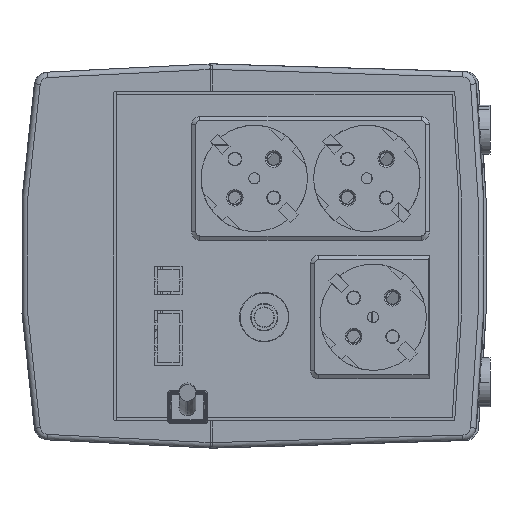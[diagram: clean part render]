
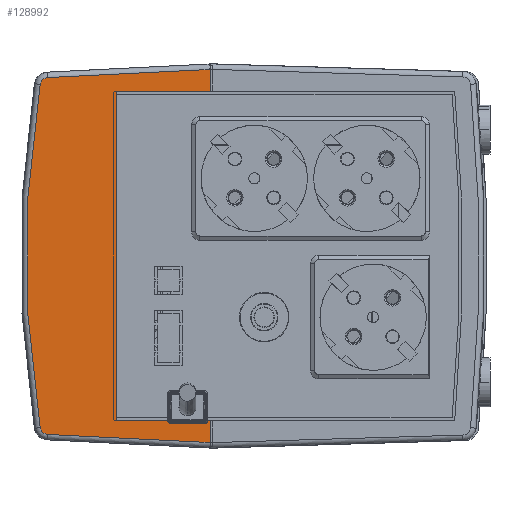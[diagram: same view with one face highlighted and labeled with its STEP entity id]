
A CAD part, left-side view. The second image highlights one B-rep face of the part: STEP entity #128992.
In plain terms, the highlighted planar face has unit normal (-1, 0, 0).
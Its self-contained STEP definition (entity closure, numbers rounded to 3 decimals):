
#406 = EDGE_CURVE ( 'NONE', #100582, #127270, #60407, .T. ) ;
#3980 = VERTEX_POINT ( 'NONE', #127202 ) ;
#5617 = PLANE ( 'NONE',  #14677 ) ;
#9264 = EDGE_CURVE ( 'NONE', #3980, #29879, #82526, .T. ) ;
#9456 = VERTEX_POINT ( 'NONE', #147312 ) ;
#11279 = AXIS2_PLACEMENT_3D ( 'NONE', #92050, #19316, #143255 ) ;
#12023 = CARTESIAN_POINT ( 'NONE',  ( -167.5, 101., 67.948 ) ) ;
#14677 = AXIS2_PLACEMENT_3D ( 'NONE', #65148, #41193, #90747 ) ;
#16124 = VECTOR ( 'NONE', #54950, 1000. ) ;
#19316 = DIRECTION ( 'NONE',  ( -1., 0., 0. ) ) ;
#23396 = AXIS2_PLACEMENT_3D ( 'NONE', #29069, #23582, #73975 ) ;
#23582 = DIRECTION ( 'NONE',  ( -1., 0., 0. ) ) ;
#25087 = LINE ( 'NONE', #75467, #106551 ) ;
#27967 = CARTESIAN_POINT ( 'NONE',  ( -167.5, 135., 60. ) ) ;
#29069 = CARTESIAN_POINT ( 'NONE',  ( -167.5, -220.06, 0. ) ) ;
#29879 = VERTEX_POINT ( 'NONE', #74283 ) ;
#33318 = VECTOR ( 'NONE', #163282, 1000. ) ;
#33427 = LINE ( 'NONE', #81368, #141176 ) ;
#35736 = CARTESIAN_POINT ( 'NONE',  ( -167.5, 101., -60. ) ) ;
#37455 = DIRECTION ( 'NONE',  ( 0., 1., 0. ) ) ;
#38562 = LINE ( 'NONE', #110462, #33318 ) ;
#40950 = CARTESIAN_POINT ( 'NONE',  ( -167.5, 160.077, -64.994 ) ) ;
#41193 = DIRECTION ( 'NONE',  ( -1., 0., 0. ) ) ;
#42810 = FACE_OUTER_BOUND ( 'NONE', #106217, .T. ) ;
#44492 = DIRECTION ( 'NONE',  ( 0., 0.999, -0.05 ) ) ;
#52063 = VECTOR ( 'NONE', #159296, 1000. ) ;
#54454 = CARTESIAN_POINT ( 'NONE',  ( -167.5, 101., 67.948 ) ) ;
#54464 = ORIENTED_EDGE ( 'NONE', *, *, #129390, .F. ) ;
#54950 = DIRECTION ( 'NONE',  ( 0., 1., 0. ) ) ;
#56588 = DIRECTION ( 'NONE',  ( 0., 0., 1. ) ) ;
#60407 = LINE ( 'NONE', #67348, #16124 ) ;
#62424 = EDGE_CURVE ( 'NONE', #110234, #9456, #25087, .T. ) ;
#65148 = CARTESIAN_POINT ( 'NONE',  ( -167.5, 0., -70. ) ) ;
#67348 = CARTESIAN_POINT ( 'NONE',  ( -167.5, 101., -60. ) ) ;
#69983 = EDGE_CURVE ( 'NONE', #92618, #3980, #141991, .T. ) ;
#70548 = DIRECTION ( 'NONE',  ( 0., 0.987, -0.161 ) ) ;
#71352 = CARTESIAN_POINT ( 'NONE',  ( -167.5, 159.927, -61.997 ) ) ;
#73189 = ORIENTED_EDGE ( 'NONE', *, *, #9264, .T. ) ;
#73500 = CIRCLE ( 'NONE', #23396, 388.012 ) ;
#73975 = DIRECTION ( 'NONE',  ( 0., 0.987, 0.161 ) ) ;
#74283 = CARTESIAN_POINT ( 'NONE',  ( -167.5, 162.888, 62.48 ) ) ;
#75459 = ORIENTED_EDGE ( 'NONE', *, *, #160970, .F. ) ;
#75467 = CARTESIAN_POINT ( 'NONE',  ( -167.5, 101., 60. ) ) ;
#78136 = EDGE_CURVE ( 'NONE', #159795, #96695, #108927, .T. ) ;
#79233 = VECTOR ( 'NONE', #44492, 1000. ) ;
#81368 = CARTESIAN_POINT ( 'NONE',  ( -167.5, 101., -67.948 ) ) ;
#81681 = CARTESIAN_POINT ( 'NONE',  ( -167.5, 162.888, -62.48 ) ) ;
#82526 = CIRCLE ( 'NONE', #11279, 3. ) ;
#87414 = ORIENTED_EDGE ( 'NONE', *, *, #406, .T. ) ;
#87466 = LINE ( 'NONE', #27967, #92987 ) ;
#87867 = CARTESIAN_POINT ( 'NONE',  ( -167.5, 135., -60. ) ) ;
#89909 = DIRECTION ( 'NONE',  ( 0., 0., -1. ) ) ;
#90747 = DIRECTION ( 'NONE',  ( 0., 0., 1. ) ) ;
#92050 = CARTESIAN_POINT ( 'NONE',  ( -167.5, 159.927, 61.997 ) ) ;
#92618 = VERTEX_POINT ( 'NONE', #12023 ) ;
#92987 = VECTOR ( 'NONE', #89909, 1000. ) ;
#96054 = EDGE_CURVE ( 'NONE', #96695, #100582, #33427, .T. ) ;
#96695 = VERTEX_POINT ( 'NONE', #137044 ) ;
#100582 = VERTEX_POINT ( 'NONE', #35736 ) ;
#104566 = ORIENTED_EDGE ( 'NONE', *, *, #69983, .T. ) ;
#106217 = EDGE_LOOP ( 'NONE', ( #104566, #73189, #143257, #152239, #151307, #155517, #87414, #75459, #144295, #54464 ) ) ;
#106551 = VECTOR ( 'NONE', #37455, 1000. ) ;
#108216 = EDGE_CURVE ( 'NONE', #122418, #159795, #139557, .T. ) ;
#108927 = LINE ( 'NONE', #153796, #52063 ) ;
#110234 = VERTEX_POINT ( 'NONE', #149157 ) ;
#110462 = CARTESIAN_POINT ( 'NONE',  ( -167.5, 101., 67.948 ) ) ;
#122418 = VERTEX_POINT ( 'NONE', #81681 ) ;
#123094 = EDGE_CURVE ( 'NONE', #29879, #122418, #73500, .T. ) ;
#127202 = CARTESIAN_POINT ( 'NONE',  ( -167.5, 160.077, 64.994 ) ) ;
#127270 = VERTEX_POINT ( 'NONE', #87867 ) ;
#128992 = ADVANCED_FACE ( 'NONE', ( #42810 ), #5617, .T. ) ;
#129390 = EDGE_CURVE ( 'NONE', #92618, #110234, #38562, .T. ) ;
#137044 = CARTESIAN_POINT ( 'NONE',  ( -167.5, 101., -67.948 ) ) ;
#139557 = CIRCLE ( 'NONE', #150157, 3. ) ;
#141176 = VECTOR ( 'NONE', #56588, 1000. ) ;
#141991 = LINE ( 'NONE', #54454, #79233 ) ;
#143255 = DIRECTION ( 'NONE',  ( 0., 0.05, 0.999 ) ) ;
#143257 = ORIENTED_EDGE ( 'NONE', *, *, #123094, .T. ) ;
#144085 = DIRECTION ( 'NONE',  ( -1., 0., 0. ) ) ;
#144295 = ORIENTED_EDGE ( 'NONE', *, *, #62424, .F. ) ;
#147312 = CARTESIAN_POINT ( 'NONE',  ( -167.5, 135., 60. ) ) ;
#149157 = CARTESIAN_POINT ( 'NONE',  ( -167.5, 101., 60. ) ) ;
#150157 = AXIS2_PLACEMENT_3D ( 'NONE', #71352, #144085, #70548 ) ;
#151307 = ORIENTED_EDGE ( 'NONE', *, *, #78136, .T. ) ;
#152239 = ORIENTED_EDGE ( 'NONE', *, *, #108216, .T. ) ;
#153796 = CARTESIAN_POINT ( 'NONE',  ( -167.5, 160.077, -64.994 ) ) ;
#155517 = ORIENTED_EDGE ( 'NONE', *, *, #96054, .T. ) ;
#159296 = DIRECTION ( 'NONE',  ( 0., -0.999, -0.05 ) ) ;
#159795 = VERTEX_POINT ( 'NONE', #40950 ) ;
#160970 = EDGE_CURVE ( 'NONE', #9456, #127270, #87466, .T. ) ;
#163282 = DIRECTION ( 'NONE',  ( 0., 0., -1. ) ) ;
